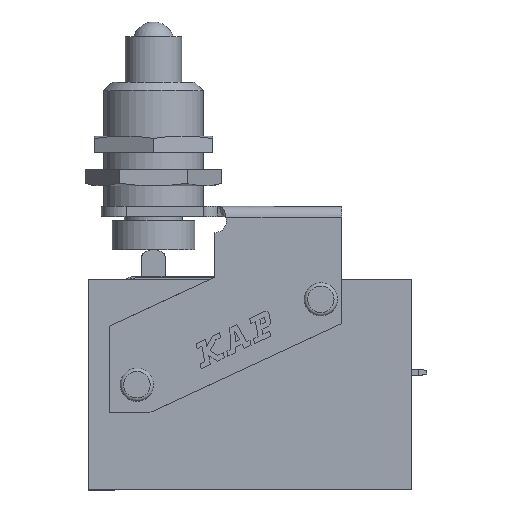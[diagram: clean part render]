
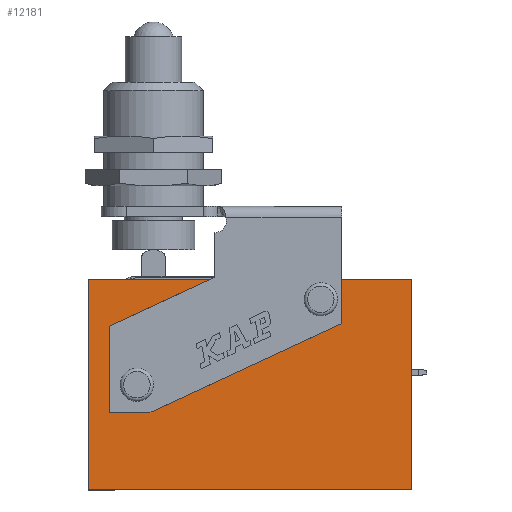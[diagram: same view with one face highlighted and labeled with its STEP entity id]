
A CAD part, top view. The second image highlights one B-rep face of the part: STEP entity #12181.
In plain terms, the highlighted planar face has unit normal (0, 0, 1).
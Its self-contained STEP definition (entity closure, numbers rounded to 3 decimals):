
#12094=CARTESIAN_POINT('',(13.7,0.,0.3));
#12095=DIRECTION('',(0.0,0.0,1.0));
#12096=DIRECTION('',(1.0,0.0,0.0));
#12097=AXIS2_PLACEMENT_3D('',#12094,#12095,#12096);
#12098=PLANE('',#12097);
#12099=CARTESIAN_POINT('',(24.7,7.381,0.3));
#12100=VERTEX_POINT('',#12099);
#12101=CARTESIAN_POINT('',(24.7,12.7,0.3));
#12102=VERTEX_POINT('',#12101);
#12103=CARTESIAN_POINT('',(24.7,7.381,0.3));
#12104=DIRECTION('',(0.0,1.0,0.0));
#12105=VECTOR('',#12104,5.319);
#12106=LINE('',#12103,#12105);
#12107=EDGE_CURVE('',#12100,#12102,#12106,.T.);
#12108=ORIENTED_EDGE('',*,*,#12107,.F.);
#12109=CARTESIAN_POINT('',(1.463,-3.4,0.3));
#12110=VERTEX_POINT('',#12109);
#12111=CARTESIAN_POINT('',(1.463,-3.4,0.3));
#12112=DIRECTION('',(0.907,0.421,0.));
#12113=VECTOR('',#12112,25.616);
#12114=LINE('',#12111,#12113);
#12115=EDGE_CURVE('',#12110,#12100,#12114,.T.);
#12116=ORIENTED_EDGE('',*,*,#12115,.F.);
#12117=CARTESIAN_POINT('',(-3.3,-3.4,0.3));
#12118=VERTEX_POINT('',#12117);
#12119=CARTESIAN_POINT('',(-3.3,-3.4,0.3));
#12120=DIRECTION('',(1.0,0.0,0.0));
#12121=VECTOR('',#12120,4.763);
#12122=LINE('',#12119,#12121);
#12123=EDGE_CURVE('',#12118,#12110,#12122,.T.);
#12124=ORIENTED_EDGE('',*,*,#12123,.F.);
#12125=CARTESIAN_POINT('',(-3.3,7.068,0.3));
#12126=VERTEX_POINT('',#12125);
#12127=CARTESIAN_POINT('',(-3.3,7.068,0.3));
#12128=DIRECTION('',(0.0,-1.0,0.0));
#12129=VECTOR('',#12128,10.468);
#12130=LINE('',#12127,#12129);
#12131=EDGE_CURVE('',#12126,#12118,#12130,.T.);
#12132=ORIENTED_EDGE('',*,*,#12131,.F.);
#12133=CARTESIAN_POINT('',(8.84,12.7,0.3));
#12134=VERTEX_POINT('',#12133);
#12135=CARTESIAN_POINT('',(8.84,12.7,0.3));
#12136=DIRECTION('',(-0.907,-0.421,0.));
#12137=VECTOR('',#12136,13.383);
#12138=LINE('',#12135,#12137);
#12139=EDGE_CURVE('',#12134,#12126,#12138,.T.);
#12140=ORIENTED_EDGE('',*,*,#12139,.F.);
#12141=CARTESIAN_POINT('',(-5.8,12.7,0.3));
#12142=VERTEX_POINT('',#12141);
#12143=CARTESIAN_POINT('',(-5.8,12.7,0.3));
#12144=DIRECTION('',(1.0,0.0,0.0));
#12145=VECTOR('',#12144,14.64);
#12146=LINE('',#12143,#12145);
#12147=EDGE_CURVE('',#12142,#12134,#12146,.T.);
#12148=ORIENTED_EDGE('',*,*,#12147,.F.);
#12149=CARTESIAN_POINT('',(-5.8,-12.7,0.3));
#12150=VERTEX_POINT('',#12149);
#12151=CARTESIAN_POINT('',(-5.8,-12.7,0.3));
#12152=DIRECTION('',(0.0,1.0,0.0));
#12153=VECTOR('',#12152,25.4);
#12154=LINE('',#12151,#12153);
#12155=EDGE_CURVE('',#12150,#12142,#12154,.T.);
#12156=ORIENTED_EDGE('',*,*,#12155,.F.);
#12157=CARTESIAN_POINT('',(33.2,-12.7,0.3));
#12158=VERTEX_POINT('',#12157);
#12159=CARTESIAN_POINT('',(33.2,-12.7,0.3));
#12160=DIRECTION('',(-1.0,0.0,0.0));
#12161=VECTOR('',#12160,39.0);
#12162=LINE('',#12159,#12161);
#12163=EDGE_CURVE('',#12158,#12150,#12162,.T.);
#12164=ORIENTED_EDGE('',*,*,#12163,.F.);
#12165=CARTESIAN_POINT('',(33.2,12.7,0.3));
#12166=VERTEX_POINT('',#12165);
#12167=CARTESIAN_POINT('',(33.2,12.7,0.3));
#12168=DIRECTION('',(0.0,-1.0,0.0));
#12169=VECTOR('',#12168,25.4);
#12170=LINE('',#12167,#12169);
#12171=EDGE_CURVE('',#12166,#12158,#12170,.T.);
#12172=ORIENTED_EDGE('',*,*,#12171,.F.);
#12173=CARTESIAN_POINT('',(24.7,12.7,0.3));
#12174=DIRECTION('',(1.0,0.0,0.0));
#12175=VECTOR('',#12174,8.5);
#12176=LINE('',#12173,#12175);
#12177=EDGE_CURVE('',#12102,#12166,#12176,.T.);
#12178=ORIENTED_EDGE('',*,*,#12177,.F.);
#12179=EDGE_LOOP('',(#12108,#12116,#12124,#12132,#12140,#12148,#12156,#12164,#12172,#12178));
#12180=FACE_OUTER_BOUND('',#12179,.T.);
#12181=ADVANCED_FACE('',(#12180),#12098,.T.);
